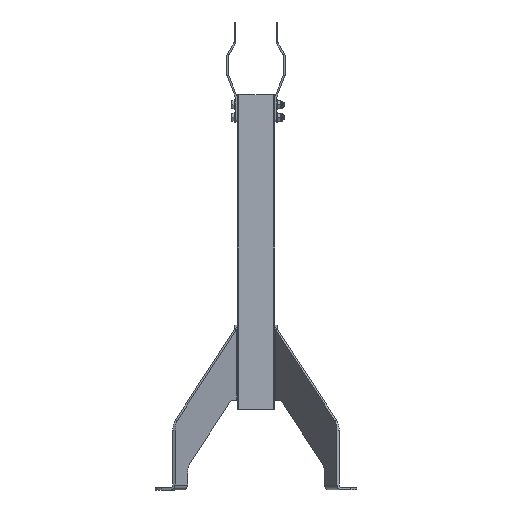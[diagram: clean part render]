
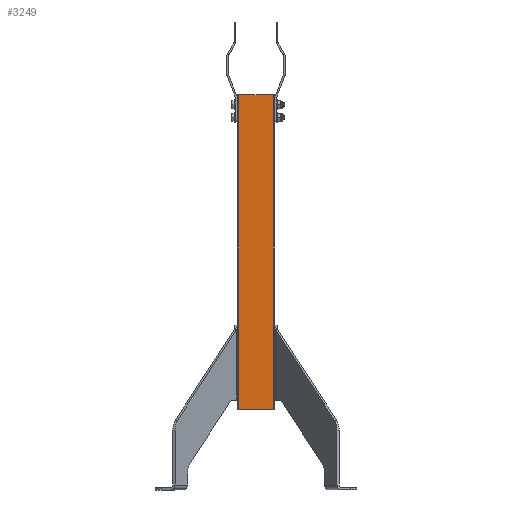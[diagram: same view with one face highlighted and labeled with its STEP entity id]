
A CAD part, front view. The second image highlights one B-rep face of the part: STEP entity #3249.
In plain terms, the highlighted planar face has unit normal (0, -1, 0).
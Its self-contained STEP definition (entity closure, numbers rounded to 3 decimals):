
#419=FACE_OUTER_BOUND('',#624,.T.);
#624=EDGE_LOOP('',(#2488,#2489,#2490,#2491));
#869=LINE('',#5273,#1132);
#871=LINE('',#5279,#1134);
#872=LINE('',#5281,#1135);
#873=LINE('',#5282,#1136);
#1132=VECTOR('',#4276,10.);
#1134=VECTOR('',#4282,10.);
#1135=VECTOR('',#4283,10.);
#1136=VECTOR('',#4284,10.);
#1552=VERTEX_POINT('',#5270);
#1553=VERTEX_POINT('',#5272);
#1555=VERTEX_POINT('',#5278);
#1556=VERTEX_POINT('',#5280);
#1896=EDGE_CURVE('',#1552,#1553,#869,.T.);
#1899=EDGE_CURVE('',#1552,#1555,#871,.T.);
#1900=EDGE_CURVE('',#1556,#1555,#872,.T.);
#1901=EDGE_CURVE('',#1556,#1553,#873,.T.);
#2488=ORIENTED_EDGE('',*,*,#1896,.F.);
#2489=ORIENTED_EDGE('',*,*,#1899,.T.);
#2490=ORIENTED_EDGE('',*,*,#1900,.F.);
#2491=ORIENTED_EDGE('',*,*,#1901,.T.);
#3117=PLANE('',#3664);
#3249=ADVANCED_FACE('',(#419),#3117,.T.);
#3664=AXIS2_PLACEMENT_3D('',#5277,#4280,#4281);
#4276=DIRECTION('',(0.,0.,-1.));
#4280=DIRECTION('center_axis',(0.,-1.,0.));
#4281=DIRECTION('ref_axis',(0.,0.,-1.));
#4282=DIRECTION('',(-1.,0.,0.));
#4283=DIRECTION('',(0.,0.,1.));
#4284=DIRECTION('',(1.,0.,0.));
#5270=CARTESIAN_POINT('',(58.,0.,503.77));
#5272=CARTESIAN_POINT('',(58.,0.,0.));
#5273=CARTESIAN_POINT('',(58.,0.,0.));
#5277=CARTESIAN_POINT('Origin',(60.,0.,0.));
#5278=CARTESIAN_POINT('',(2.,0.,503.77));
#5279=CARTESIAN_POINT('',(0.,0.,503.77));
#5280=CARTESIAN_POINT('',(2.,0.,0.));
#5281=CARTESIAN_POINT('',(2.,0.,0.));
#5282=CARTESIAN_POINT('',(0.,0.,0.));
